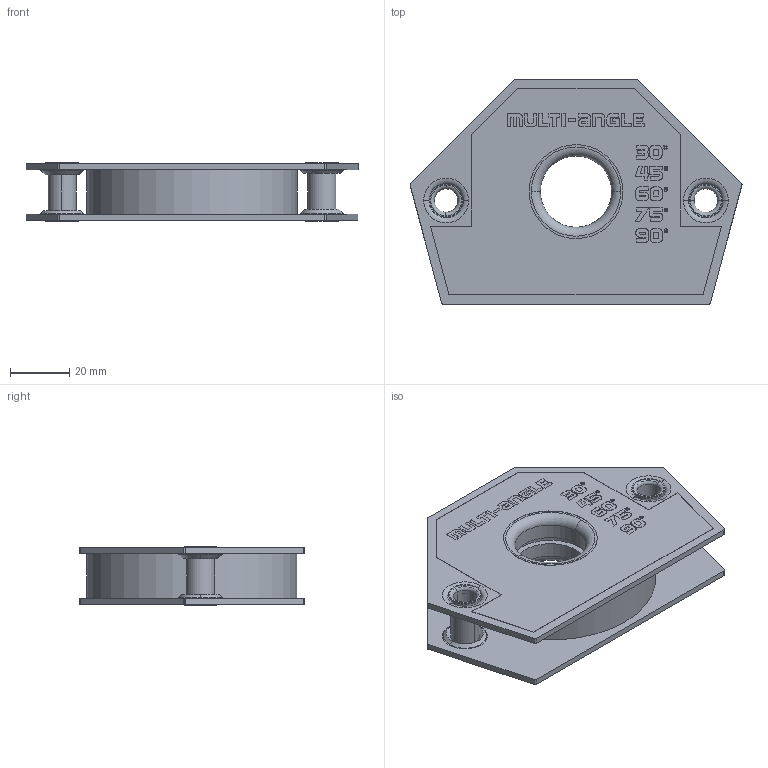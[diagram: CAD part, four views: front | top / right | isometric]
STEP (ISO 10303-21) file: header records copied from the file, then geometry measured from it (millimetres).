
FILE_DESCRIPTION (( 'STEP AP203' ), '1' );
FILE_NAME ('WS11094.STEP', '2018-08-20T20:29:43', ( '' ), ( '' ), 'SwSTEP 2.0', 'SolidWorks 2015', '' );
FILE_SCHEMA (( 'CONFIG_CONTROL_DESIGN' ));
Length unit declared in the file: inch
Products named in the file (1): WS11094
Bounding box: 112.35 x 75.95 x 19.84 mm (x, y, z)
Volume: 77072 mm3; surface area: 51222.9 mm2
Topology: 6 solids, 6 shells, 650 faces, 1737 edges, 1142 vertices
Faces by surface type: plane 300, bspline 252, cylinder 42, torus 32, cone 24
Entity records: 21582 total; most frequent: CARTESIAN_POINT 6830, ORIENTED_EDGE 3474, DIRECTION 2211, EDGE_CURVE 1737, VERTEX_POINT 1142, VECTOR 1053, LINE 1053, EDGE_LOOP 713
